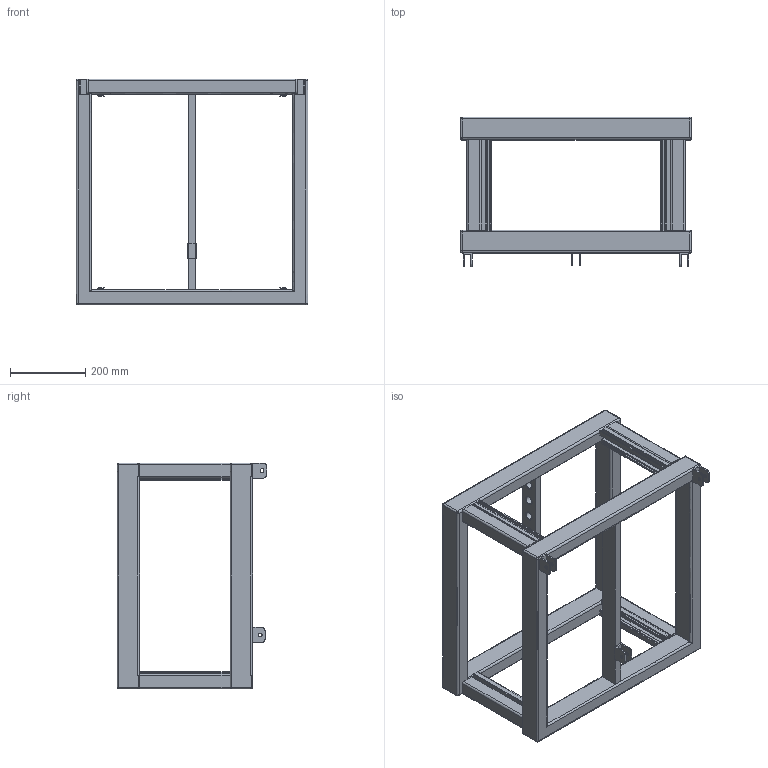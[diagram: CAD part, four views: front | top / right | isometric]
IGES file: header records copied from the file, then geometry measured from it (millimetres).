
Start section: SolidWorks IGES file using analytic representation for surfaces
Global section: file name: C:\Dokumente und Einstellungen\PC_Fabian\Desktop\Galeo_und_Co\Seeburg_Galeo-Combicradle.IGS; native system: SolidWorks 2009; preprocessor: SolidWorks 2009; author: PC_Fabian; date: 121017.104455; units: millimetre
Bounding box: 615 x 398 x 600.01 mm (x, y, z)
Surface area: 1792675.9 mm2 (no closed solid volume)
Topology: 0 solids, 0 shells, 468 faces, 4461 edges, 4455 vertices
Faces by surface type: bspline 328, revolution 140
